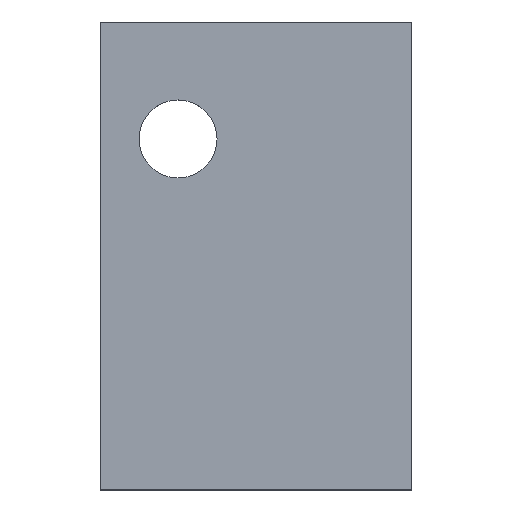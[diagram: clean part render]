
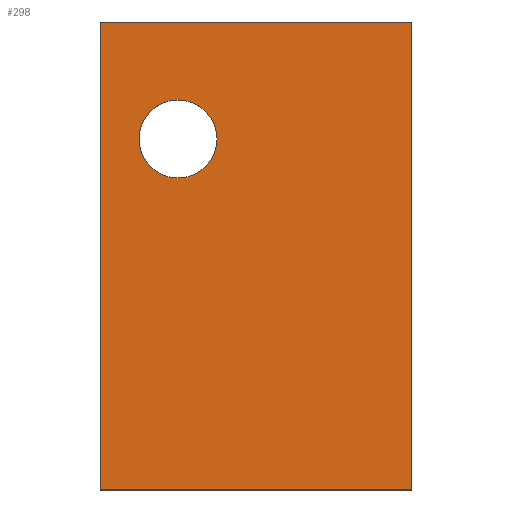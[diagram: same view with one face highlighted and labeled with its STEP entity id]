
A CAD part, top view. The second image highlights one B-rep face of the part: STEP entity #298.
In plain terms, the highlighted planar face has unit normal (0, 0, 1).
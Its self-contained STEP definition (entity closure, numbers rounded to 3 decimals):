
#284=FACE_BOUND('',#423,.T.);
#286=PLANE('',#585);
#298=ADVANCED_FACE('',(#306,#284),#286,.T.);
#306=FACE_OUTER_BOUND('',#422,.T.);
#313=CIRCLE('',#583,5.);
#315=CIRCLE('',#586,5.);
#321=ORIENTED_EDGE('',*,*,#357,.T.);
#322=ORIENTED_EDGE('',*,*,#358,.T.);
#323=ORIENTED_EDGE('',*,*,#359,.T.);
#324=ORIENTED_EDGE('',*,*,#360,.T.);
#325=ORIENTED_EDGE('',*,*,#361,.F.);
#326=ORIENTED_EDGE('',*,*,#354,.F.);
#354=EDGE_CURVE('1',#410,#411,#313,.T.);
#357=EDGE_CURVE('5',#413,#414,#392,.T.);
#358=EDGE_CURVE('6',#414,#415,#393,.T.);
#359=EDGE_CURVE('7',#415,#416,#394,.T.);
#360=EDGE_CURVE('8',#416,#413,#395,.T.);
#361=EDGE_CURVE('9',#411,#410,#315,.T.);
#373=VECTOR('',#625,40.);
#374=VECTOR('',#626,60.);
#375=VECTOR('',#623,40.);
#376=VECTOR('',#627,60.);
#392=LINE('',#520,#373);
#393=LINE('',#521,#374);
#394=LINE('',#519,#375);
#395=LINE('',#522,#376);
#410=VERTEX_POINT('1',#515);
#411=VERTEX_POINT('2',#516);
#413=VERTEX_POINT('5',#520);
#414=VERTEX_POINT('6',#521);
#415=VERTEX_POINT('7',#519);
#416=VERTEX_POINT('8',#522);
#422=EDGE_LOOP('',(#321,#322,#323,#324));
#423=EDGE_LOOP('',(#325,#326));
#513=CARTESIAN_POINT('',(-30.,45.,10.));
#515=CARTESIAN_POINT('',(-25.,45.,10.));
#516=CARTESIAN_POINT('',(-35.,45.,10.));
#519=CARTESIAN_POINT('',(-40.,0.,10.));
#520=CARTESIAN_POINT('',(0.,60.,10.));
#521=CARTESIAN_POINT('',(-40.,60.,10.));
#522=CARTESIAN_POINT('',(0.,0.,10.));
#583=AXIS2_PLACEMENT_3D('',#513,#622,#623);
#585=AXIS2_PLACEMENT_3D('',#519,#622,#623);
#586=AXIS2_PLACEMENT_3D('',#513,#622,#625);
#622=DIRECTION('',(0.,0.,1.));
#623=DIRECTION('',(1.,0.,0.));
#625=DIRECTION('',(-1.,0.,0.));
#626=DIRECTION('',(0.,-1.,0.));
#627=DIRECTION('',(0.,1.,0.));
